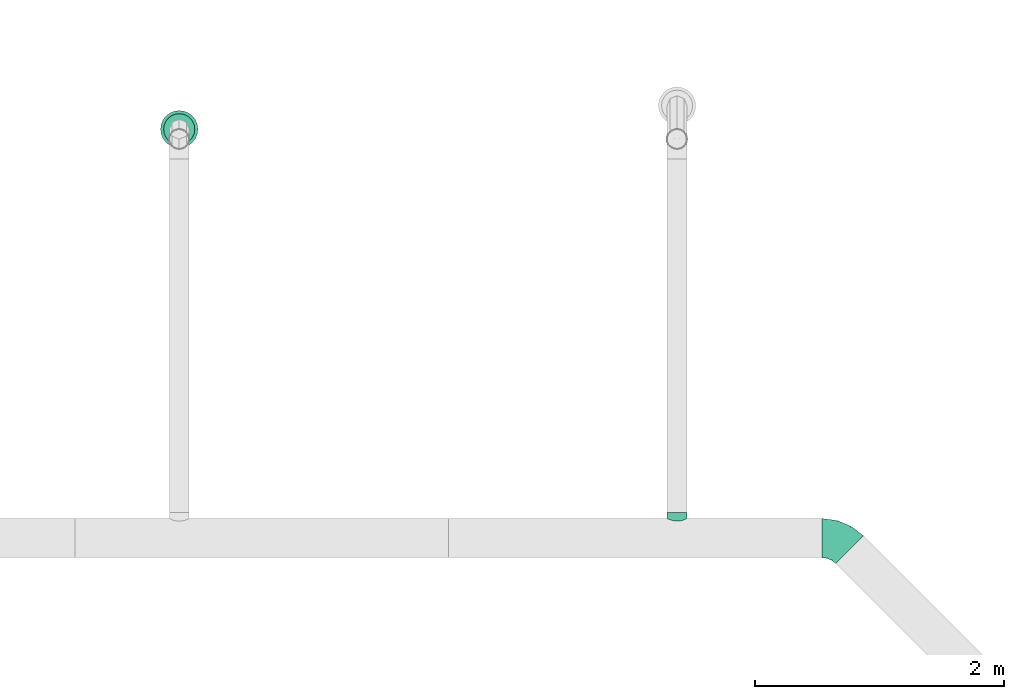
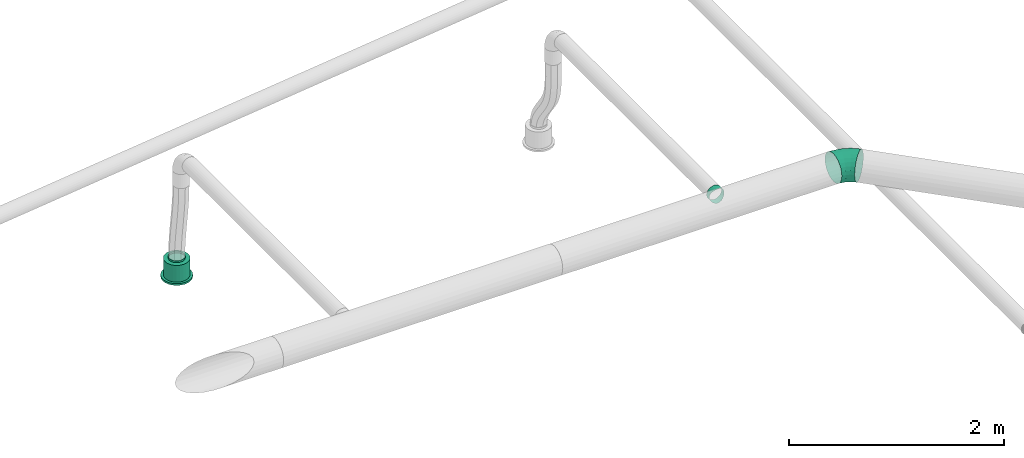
# One storey, part 52 of 374: 1 flow fitting, 1 flow segment, 1 flow terminal.
"""IFC2X3 building model written with IfcOpenShell, lengths in metres."""

from ifc_helpers import new_model, si_unit, direction, origin, place, context, subcontext, project, spatial, open_shell, surface_model, source, transform, mapped, element, save


model = new_model("IFC2X3")

# Units and contexts
model_context = context("Model", 3, precision=1e-05, world=origin(), true_north=direction((-0.4480736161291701, 0.8939966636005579)))
body_context = subcontext(model_context, "Body", "Model", "MODEL_VIEW")
ifc_project = project(units=[si_unit("LENGTHUNIT", "METRE"), si_unit("AREAUNIT", "SQUARE_METRE"), si_unit("VOLUMEUNIT", "CUBIC_METRE"), si_unit("PLANEANGLEUNIT", "RADIAN"), si_unit("THERMODYNAMICTEMPERATUREUNIT", "KELVIN"), si_unit("MASSUNIT", "GRAM", prefix="KILO"), si_unit("TIMEUNIT", "SECOND")], contexts=[model_context])

# Site, building, storey
site_placement = place(None, origin())
site = spatial("IfcSite", under=ifc_project, at=site_placement, Name="Site 1", CompositionType="ELEMENT")
building_placement = place(site_placement, origin())
building = spatial("IfcBuilding", under=site, at=building_placement, Name="Undefined", CompositionType="ELEMENT")
storey_placement = place(building_placement, origin())
storey = spatial("IfcBuildingStorey", under=building, at=storey_placement, Name="Rez de chauss\x8ee", CompositionType="ELEMENT", Elevation=0.0)

# Flow terminal
shared_shape_1 = source(origin(), body_context, "Body", "SurfaceModel", [
    surface_model("IfcFaceBasedSurfaceModel", [(0.0, 0.0, 0.0), (0.03915785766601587, 0.0, 0.0), (0.03915785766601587, 0.020000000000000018, 0.0), (3.552713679e-15, 0.020000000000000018, 0.0), (0.07698144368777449, 0.0, -0.010134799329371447), (0.07698144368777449, 0.020000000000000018, -0.010134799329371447), (0.11089314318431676, 0.0, -0.02971372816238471), (0.11089314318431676, 0.020000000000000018, -0.02971372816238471), (0.13858192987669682, 0.0, -0.05740251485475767), (0.13858192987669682, 0.020000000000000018, -0.05740251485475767), (0.15816085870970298, 0.0, -0.09131421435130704), (0.15816085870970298, 0.020000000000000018, -0.09131421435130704), (0.16829565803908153, 0.0, -0.12913780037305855), (0.16829565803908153, 0.020000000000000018, -0.12913780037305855), (0.16829565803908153, 0.0, -0.16829565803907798), (0.16829565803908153, 0.020000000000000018, -0.16829565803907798), (0.15816085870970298, 0.0, -0.20611924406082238), (0.15816085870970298, 0.020000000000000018, -0.20611924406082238), (0.13858192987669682, 0.0, -0.24003094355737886), (0.13858192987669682, 0.020000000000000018, -0.24003094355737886), (0.11089314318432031, 0.0, -0.2677197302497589), (0.11089314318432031, 0.020000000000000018, -0.2677197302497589), (0.07698144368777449, 0.0, -0.2872986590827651), (0.07698144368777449, 0.020000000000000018, -0.2872986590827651), (0.039157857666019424, 0.0, -0.29743345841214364), (0.039157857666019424, 0.020000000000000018, -0.29743345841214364), (3.552713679e-15, 0.0, -0.29743345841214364), (3.552713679e-15, 0.020000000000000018, -0.29743345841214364), (-0.03782358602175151, 0.0, -0.2872986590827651), (-0.03782358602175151, 0.020000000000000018, -0.2872986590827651), (-0.07173528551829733, 0.0, -0.2677197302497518), (-0.07173528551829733, 0.020000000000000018, -0.2677197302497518), (-0.0994240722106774, 0.0, -0.24003094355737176), (-0.0994240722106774, 0.020000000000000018, -0.24003094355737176), (-0.11900300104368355, 0.0, -0.2061192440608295), (-0.11900300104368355, 0.020000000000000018, -0.2061192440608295), (-0.1291378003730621, 0.0, -0.16829565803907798), (-0.1291378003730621, 0.020000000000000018, -0.16829565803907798), (-0.1291378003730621, 0.0, -0.12913780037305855), (-0.1291378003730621, 0.020000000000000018, -0.12913780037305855), (-0.11900300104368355, 0.0, -0.09131421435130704), (-0.11900300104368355, 0.020000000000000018, -0.09131421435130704), (-0.0994240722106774, 0.0, -0.05740251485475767), (-0.0994240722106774, 0.020000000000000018, -0.05740251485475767), (-0.07173528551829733, 0.0, -0.029713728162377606), (-0.07173528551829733, 0.020000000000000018, -0.029713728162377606), (-0.03782358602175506, 0.0, -0.010134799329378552), (-0.03782358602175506, 0.020000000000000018, -0.010134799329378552), (0.019578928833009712, 0.0, -0.14871672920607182), (0.019578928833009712, 0.020000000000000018, -0.14871672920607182), (0.003263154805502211, 0.020000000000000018, -0.02478612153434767), (0.035894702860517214, 0.020000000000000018, -0.02478612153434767), (0.035894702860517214, 0.20999999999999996, -0.02478612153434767), (0.003263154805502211, 0.20999999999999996, -0.02478612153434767), (0.06741435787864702, 0.020000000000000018, -0.033231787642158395), (0.06741435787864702, 0.20999999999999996, -0.033231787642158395), (0.0956741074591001, 0.020000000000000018, -0.04954756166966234), (0.0956741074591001, 0.20999999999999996, -0.04954756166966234), (0.11874809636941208, 0.020000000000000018, -0.07262155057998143), (0.11874809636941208, 0.20999999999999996, -0.07262155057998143), (0.13506387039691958, 0.020000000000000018, -0.10088130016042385), (0.13506387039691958, 0.20999999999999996, -0.10088130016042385), (0.1435095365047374, 0.020000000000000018, -0.13240095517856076), (0.1435095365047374, 0.20999999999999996, -0.13240095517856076), (0.1435095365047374, 0.020000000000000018, -0.16503250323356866), (0.1435095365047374, 0.20999999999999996, -0.16503250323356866), (0.13506387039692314, 0.020000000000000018, -0.19655215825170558), (0.13506387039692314, 0.20999999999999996, -0.19655215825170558), (0.11874809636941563, 0.020000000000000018, -0.2248119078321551), (0.11874809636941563, 0.20999999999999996, -0.2248119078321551), (0.09567410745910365, 0.020000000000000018, -0.24788589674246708), (0.09567410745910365, 0.20999999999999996, -0.24788589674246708), (0.06741435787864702, 0.020000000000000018, -0.26420167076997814), (0.06741435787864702, 0.20999999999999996, -0.26420167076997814), (0.035894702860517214, 0.020000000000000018, -0.27264733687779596), (0.035894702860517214, 0.20999999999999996, -0.27264733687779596), (0.0032631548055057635, 0.020000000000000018, -0.27264733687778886), (0.0032631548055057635, 0.20999999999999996, -0.27264733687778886), (-0.028256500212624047, 0.020000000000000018, -0.26420167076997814), (-0.028256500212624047, 0.20999999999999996, -0.26420167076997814), (-0.05651624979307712, 0.020000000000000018, -0.2478858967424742), (-0.05651624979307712, 0.20999999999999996, -0.2478858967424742), (-0.07959023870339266, 0.020000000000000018, -0.2248119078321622), (-0.07959023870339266, 0.20999999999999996, -0.2248119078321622), (-0.09590601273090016, 0.020000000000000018, -0.19655215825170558), (-0.09590601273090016, 0.20999999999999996, -0.19655215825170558), (-0.10435167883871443, 0.020000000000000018, -0.16503250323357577), (-0.10435167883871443, 0.20999999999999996, -0.16503250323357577), (-0.10435167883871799, 0.020000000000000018, -0.13240095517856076), (-0.10435167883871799, 0.20999999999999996, -0.13240095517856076), (-0.09590601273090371, 0.020000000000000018, -0.10088130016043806), (-0.09590601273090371, 0.20999999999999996, -0.10088130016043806), (-0.07959023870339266, 0.020000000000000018, -0.07262155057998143), (-0.07959023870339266, 0.20999999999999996, -0.07262155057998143), (-0.056516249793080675, 0.020000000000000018, -0.04954756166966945), (-0.056516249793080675, 0.20999999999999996, -0.04954756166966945), (-0.028256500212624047, 0.020000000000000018, -0.033231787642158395), (-0.028256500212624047, 0.20999999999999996, -0.033231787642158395), (0.019578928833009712, 0.20999999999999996, -0.14871672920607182), (0.009136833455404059, 0.20999999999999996, -0.06940114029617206), (0.030021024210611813, 0.20999999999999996, -0.06940114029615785), (0.030021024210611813, 0.22999999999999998, -0.06940114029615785), (0.009136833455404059, 0.22999999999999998, -0.06940114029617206), (0.05019360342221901, 0.20999999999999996, -0.07480636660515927), (0.05019360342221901, 0.22999999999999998, -0.07480636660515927), (0.06827984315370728, 0.20999999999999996, -0.08524846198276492), (0.06827984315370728, 0.22999999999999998, -0.08524846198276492), (0.0830471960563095, 0.20999999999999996, -0.10001581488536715), (0.0830471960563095, 0.22999999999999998, -0.10001581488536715), (0.0934892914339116, 0.20999999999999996, -0.11810205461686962), (0.0934892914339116, 0.22999999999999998, -0.11810205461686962), (0.09889451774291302, 0.20999999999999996, -0.13827463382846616), (0.09889451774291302, 0.22999999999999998, -0.13827463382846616), (0.09889451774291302, 0.20999999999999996, -0.15915882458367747), (0.09889451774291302, 0.22999999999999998, -0.15915882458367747), (0.09348929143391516, 0.20999999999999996, -0.179331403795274), (0.09348929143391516, 0.22999999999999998, -0.179331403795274), (0.0830471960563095, 0.20999999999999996, -0.19741764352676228), (0.0830471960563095, 0.22999999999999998, -0.19741764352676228), (0.06827984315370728, 0.20999999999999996, -0.2121849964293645), (0.06827984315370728, 0.22999999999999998, -0.2121849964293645), (0.05019360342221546, 0.20999999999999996, -0.22262709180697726), (0.05019360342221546, 0.22999999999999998, -0.22262709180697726), (0.030021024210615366, 0.20999999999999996, -0.22803231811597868), (0.030021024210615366, 0.22999999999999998, -0.22803231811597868), (0.009136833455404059, 0.20999999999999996, -0.22803231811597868), (0.009136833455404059, 0.22999999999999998, -0.22803231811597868), (-0.011035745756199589, 0.20999999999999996, -0.22262709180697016), (-0.011035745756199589, 0.22999999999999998, -0.22262709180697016), (-0.0291219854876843, 0.20999999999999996, -0.2121849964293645), (-0.0291219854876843, 0.22999999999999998, -0.2121849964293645), (-0.043889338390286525, 0.20999999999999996, -0.19741764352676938), (-0.043889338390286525, 0.22999999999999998, -0.19741764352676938), (-0.05433143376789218, 0.20999999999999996, -0.17933140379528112), (-0.05433143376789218, 0.22999999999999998, -0.17933140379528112), (-0.05973666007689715, 0.20999999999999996, -0.15915882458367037), (-0.05973666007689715, 0.22999999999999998, -0.15915882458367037), (-0.0597366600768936, 0.20999999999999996, -0.13827463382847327), (-0.0597366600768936, 0.22999999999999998, -0.13827463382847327), (-0.05433143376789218, 0.20999999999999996, -0.11810205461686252), (-0.05433143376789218, 0.22999999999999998, -0.11810205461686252), (-0.043889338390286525, 0.20999999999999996, -0.10001581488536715), (-0.043889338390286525, 0.22999999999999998, -0.10001581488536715), (-0.02912198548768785, 0.20999999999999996, -0.08524846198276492), (-0.02912198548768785, 0.22999999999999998, -0.08524846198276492), (-0.011035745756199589, 0.20999999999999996, -0.07480636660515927), (-0.011035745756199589, 0.22999999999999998, -0.07480636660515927)], [open_shell([[[0, 1, 2, 3]], [[1, 4, 5, 2]], [[4, 6, 7, 5]], [[6, 8, 9, 7]], [[8, 10, 11, 9]], [[10, 12, 13, 11]], [[12, 14, 15, 13]], [[14, 16, 17, 15]], [[16, 18, 19, 17]], [[18, 20, 21, 19]], [[20, 22, 23, 21]], [[22, 24, 25, 23]], [[24, 26, 27, 25]], [[26, 28, 29, 27]], [[28, 30, 31, 29]], [[30, 32, 33, 31]], [[32, 34, 35, 33]], [[34, 36, 37, 35]], [[36, 38, 39, 37]], [[38, 40, 41, 39]], [[40, 42, 43, 41]], [[42, 44, 45, 43]], [[44, 46, 47, 45]], [[46, 0, 3, 47]], [[48, 1, 0]], [[48, 4, 1]], [[48, 6, 4]], [[48, 8, 6]], [[48, 10, 8]], [[48, 12, 10]], [[48, 14, 12]], [[48, 16, 14]], [[48, 18, 16]], [[48, 20, 18]], [[48, 22, 20]], [[48, 24, 22]], [[48, 26, 24]], [[48, 28, 26]], [[48, 30, 28]], [[48, 32, 30]], [[48, 34, 32]], [[48, 36, 34]], [[48, 38, 36]], [[48, 40, 38]], [[48, 42, 40]], [[48, 44, 42]], [[48, 46, 44]], [[48, 0, 46]], [[49, 47, 3]], [[49, 45, 47]], [[49, 43, 45]], [[49, 41, 43]], [[49, 39, 41]], [[49, 37, 39]], [[49, 35, 37]], [[49, 33, 35]], [[49, 31, 33]], [[49, 29, 31]], [[49, 27, 29]], [[49, 25, 27]], [[49, 23, 25]], [[49, 21, 23]], [[49, 19, 21]], [[49, 17, 19]], [[49, 15, 17]], [[49, 13, 15]], [[49, 11, 13]], [[49, 9, 11]], [[49, 7, 9]], [[49, 5, 7]], [[49, 2, 5]], [[49, 3, 2]], [[50, 51, 52, 53]], [[51, 54, 55, 52]], [[54, 56, 57, 55]], [[56, 58, 59, 57]], [[58, 60, 61, 59]], [[60, 62, 63, 61]], [[62, 64, 65, 63]], [[64, 66, 67, 65]], [[66, 68, 69, 67]], [[68, 70, 71, 69]], [[70, 72, 73, 71]], [[72, 74, 75, 73]], [[74, 76, 77, 75]], [[76, 78, 79, 77]], [[78, 80, 81, 79]], [[80, 82, 83, 81]], [[82, 84, 85, 83]], [[84, 86, 87, 85]], [[86, 88, 89, 87]], [[88, 90, 91, 89]], [[90, 92, 93, 91]], [[92, 94, 95, 93]], [[94, 96, 97, 95]], [[96, 50, 53, 97]], [[49, 51, 50]], [[49, 54, 51]], [[49, 56, 54]], [[49, 58, 56]], [[49, 60, 58]], [[49, 62, 60]], [[49, 64, 62]], [[49, 66, 64]], [[49, 68, 66]], [[49, 70, 68]], [[49, 72, 70]], [[49, 74, 72]], [[49, 76, 74]], [[49, 78, 76]], [[49, 80, 78]], [[49, 82, 80]], [[49, 84, 82]], [[49, 86, 84]], [[49, 88, 86]], [[49, 90, 88]], [[49, 92, 90]], [[49, 94, 92]], [[49, 96, 94]], [[49, 50, 96]], [[98, 97, 53]], [[98, 95, 97]], [[98, 93, 95]], [[98, 91, 93]], [[98, 89, 91]], [[98, 87, 89]], [[98, 85, 87]], [[98, 83, 85]], [[98, 81, 83]], [[98, 79, 81]], [[98, 77, 79]], [[98, 75, 77]], [[98, 73, 75]], [[98, 71, 73]], [[98, 69, 71]], [[98, 67, 69]], [[98, 65, 67]], [[98, 63, 65]], [[98, 61, 63]], [[98, 59, 61]], [[98, 57, 59]], [[98, 55, 57]], [[98, 52, 55]], [[98, 53, 52]], [[99, 100, 101, 102]], [[100, 103, 104, 101]], [[103, 105, 106, 104]], [[105, 107, 108, 106]], [[107, 109, 110, 108]], [[109, 111, 112, 110]], [[111, 113, 114, 112]], [[113, 115, 116, 114]], [[115, 117, 118, 116]], [[117, 119, 120, 118]], [[119, 121, 122, 120]], [[121, 123, 124, 122]], [[123, 125, 126, 124]], [[125, 127, 128, 126]], [[127, 129, 130, 128]], [[129, 131, 132, 130]], [[131, 133, 134, 132]], [[133, 135, 136, 134]], [[135, 137, 138, 136]], [[137, 139, 140, 138]], [[139, 141, 142, 140]], [[141, 143, 144, 142]], [[143, 145, 146, 144]], [[145, 99, 102, 146]]])]),
])
flow_terminal_placement = place(storey_placement, origin())
element("IfcFlowTerminal", 1, at=flow_terminal_placement, inside=storey, Name="Air diffuseur - bouche", ObjectType="Air diffuseur - bouche", context=body_context, shape_type="MappedRepresentation", body=[
    mapped(shared_shape_1, transform((22.290000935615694, 25.87999877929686, 2.38), x_axis=(0.9914448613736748, 0.13052619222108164, 0.0), y_axis=(0.0, 0.0, 1.0), z_axis=(0.13052619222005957, -0.9914448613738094, 0.0))),
])

# Flow segment
shared_shape_2 = source(origin(), body_context, "Body", "SurfaceModel", [
    surface_model("IfcFaceBasedSurfaceModel", [(0.0013669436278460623, 0.02088419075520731, 0.0), (0.0, 0.0, 0.0), (0.05136694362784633, -8.8817842e-16, 0.0), (0.05136694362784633, 0.02088419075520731, 0.0), (-0.0037970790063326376, -0.020172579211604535, -0.005405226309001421), (0.05136694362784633, -0.020172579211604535, -0.005405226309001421), (-0.009142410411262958, -0.03825881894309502, -0.015847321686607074), (0.05136694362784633, -0.03825881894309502, -0.015847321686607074), (-0.014689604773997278, -0.05302617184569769, -0.030614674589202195), (0.05136694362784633, -0.05302617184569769, -0.030614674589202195), (-0.018892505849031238, -0.06346826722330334, -0.04870091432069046), (0.05136694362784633, -0.06346826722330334, -0.04870091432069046), (-0.020463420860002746, -0.06887349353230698, -0.0688734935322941), (0.05136694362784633, -0.06887349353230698, -0.0688734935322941), (-0.018892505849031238, -0.06887349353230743, -0.08975768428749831), (0.05136694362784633, -0.06887349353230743, -0.08975768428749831), (-0.014689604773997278, -0.06346826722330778, -0.10993026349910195), (0.05136694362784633, -0.06346826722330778, -0.10993026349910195), (-0.009142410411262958, -0.05302617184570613, -0.12801650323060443), (0.05136694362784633, -0.05302617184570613, -0.12801650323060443), (-0.0037970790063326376, -0.03825881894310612, -0.14278385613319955), (0.05136694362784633, -0.03825881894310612, -0.14278385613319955), (0.0, -0.020172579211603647, -0.15322595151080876), (0.05136694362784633, -0.020172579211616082, -0.1532259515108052), (0.0013669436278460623, -1.3766765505e-14, -0.15863117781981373), (0.05136694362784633, -1.3766765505e-14, -0.15863117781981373), (0.0, 0.020884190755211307, -0.15863117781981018), (0.05136694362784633, 0.02088419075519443, -0.15863117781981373), (-0.0037970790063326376, 0.041056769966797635, -0.1532259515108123), (0.05136694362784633, 0.041056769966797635, -0.1532259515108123), (-0.009142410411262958, 0.05914300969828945, -0.14278385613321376), (0.05136694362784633, 0.05914300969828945, -0.14278385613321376), (-0.014689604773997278, 0.07391036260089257, -0.12801650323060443), (0.05136694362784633, 0.07391036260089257, -0.12801650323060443), (-0.018892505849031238, 0.08435245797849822, -0.10993026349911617), (0.05136694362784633, 0.08435245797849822, -0.10993026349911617), (-0.020463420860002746, 0.08975768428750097, -0.08975768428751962), (0.05136694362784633, 0.08975768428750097, -0.08975768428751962), (-0.018892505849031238, 0.0897576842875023, -0.06887349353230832), (0.05136694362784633, 0.0897576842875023, -0.06887349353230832), (-0.014689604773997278, 0.08435245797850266, -0.04870091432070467), (0.05136694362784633, 0.08435245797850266, -0.04870091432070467), (-0.009142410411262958, 0.07391036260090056, -0.030614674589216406), (0.05136694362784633, 0.07391036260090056, -0.030614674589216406), (-0.0037970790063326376, 0.05914300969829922, -0.01584732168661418), (0.05136694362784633, 0.05914300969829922, -0.01584732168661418), (0.0, 0.04105676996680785, -0.005405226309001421), (0.05136694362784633, 0.04105676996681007, -0.005405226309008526)], [open_shell([[[0, 1, 2, 3]], [[1, 4, 5, 2]], [[4, 6, 7, 5]], [[6, 8, 9, 7]], [[8, 10, 11, 9]], [[10, 12, 13, 11]], [[12, 14, 15, 13]], [[14, 16, 17, 15]], [[16, 18, 19, 17]], [[18, 20, 21, 19]], [[20, 22, 23, 21]], [[22, 24, 25, 23]], [[24, 26, 27, 25]], [[26, 28, 29, 27]], [[28, 30, 31, 29]], [[30, 32, 33, 31]], [[32, 34, 35, 33]], [[34, 36, 37, 35]], [[36, 38, 39, 37]], [[38, 40, 41, 39]], [[40, 42, 43, 41]], [[42, 44, 45, 43]], [[44, 46, 47, 45]], [[46, 0, 3, 47]]])]),
])
flow_segment_placement = place(storey_placement, origin())
element("IfcFlowSegment", 2, at=flow_segment_placement, inside=storey, Name="Piquage équerre circulaire", ObjectType="Piquage équerre circulaire", context=body_context, shape_type="MappedRepresentation", body=[
    mapped(shared_shape_2, transform((26.212726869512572, 22.901062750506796, 3.820705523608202), x_axis=(0.0, 1.0, 0.0), y_axis=(-0.13052619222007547, 0.0, -0.9914448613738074), z_axis=(-0.9914448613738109, 0.0, 0.1305261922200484))),
])

# Flow fitting
shared_shape_3 = source(origin(), body_context, "Body", "SurfaceModel", [
    surface_model("IfcFaceBasedSurfaceModel", [(0.12334725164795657, 0.0, -1.110223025e-15), (0.12264675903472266, 0.04110978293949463, -7.77156117e-16), (0.0007004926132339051, 0.041109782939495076, -7.77156117e-16), (0.0, 0.0, 0.0), (-0.1170905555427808, 0.04519480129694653, -0.031296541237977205), (-0.11914429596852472, 0.004131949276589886, -0.0316560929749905), (-0.22269912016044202, 0.05308645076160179, -0.0917568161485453), (-0.2259661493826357, 0.01211426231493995, -0.09281096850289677), (0.12059301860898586, 0.08079531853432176, -0.01055203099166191), (0.0027542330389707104, 0.08079531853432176, -0.01055203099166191), (-0.11106929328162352, 0.08474274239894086, -0.04079441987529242), (-0.21312067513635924, 0.09236857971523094, -0.09921822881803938), (0.11732598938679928, 0.11635210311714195, -0.03093698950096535), (0.006021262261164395, 0.1163521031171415, -0.030936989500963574), (-0.10149084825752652, 0.12008064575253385, -0.05950246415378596), (-0.19788356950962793, 0.12728363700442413, -0.11468672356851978), (0.11306831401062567, 0.14535700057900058, -0.05976567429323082), (0.010278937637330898, 0.14535700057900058, -0.05976567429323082), (-0.08900797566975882, 0.14880029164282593, -0.08614575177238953), (-0.17802618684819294, 0.15545221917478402, -0.13710814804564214), (0.10811014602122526, 0.16583337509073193, -0.09507345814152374), (0.015237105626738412, 0.16583337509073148, -0.09507345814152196), (-0.07447136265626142, 0.16894448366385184, -0.1189085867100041), (-0.15490177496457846, 0.17495468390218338, -0.16495451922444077), (0.10278937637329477, 0.17638579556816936, -0.13445417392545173), (0.020557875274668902, 0.17638579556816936, -0.1344541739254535), (-0.05887165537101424, 0.17914042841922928, -0.15555823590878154), (-0.13008622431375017, 0.18446197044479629, -0.1963281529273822), (0.09746860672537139, 0.17629513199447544, -0.17522409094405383), (0.025878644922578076, 0.17629513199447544, -0.17522409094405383), (-0.043271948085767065, 0.17869328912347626, -0.19359708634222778), (-0.10527067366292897, 0.18332617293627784, -0.22909098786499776), (0.09251043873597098, 0.1655675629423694, -0.2146048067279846), (0.030836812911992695, 0.1655675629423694, -0.21460480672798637), (-0.028735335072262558, 0.1676335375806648, -0.2304328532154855), (-0.0821462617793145, 0.17162469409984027, -0.261010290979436), (0.08825276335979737, 0.14493415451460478, -0.24991259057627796), (0.0350944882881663, 0.14493415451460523, -0.2499125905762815), (-0.01625246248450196, 0.1467148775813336, -0.2635552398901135), (-0.06228887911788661, 0.15015497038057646, -0.28991081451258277), (0.08498573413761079, 0.11580103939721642, -0.27874127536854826), (0.03836151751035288, 0.11580103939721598, -0.2787412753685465), (-0.0066740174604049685, 0.11736288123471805, -0.2907070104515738), (-0.0470517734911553, 0.12038012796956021, -0.3138230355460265), (0.08293199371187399, 0.08015359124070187, -0.2991262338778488), (0.04041525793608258, 0.08015359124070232, -0.2991262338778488), (-0.0006527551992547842, 0.08157783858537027, -0.31003781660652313), (-0.037473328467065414, 0.08432927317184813, -0.3311173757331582), (0.08223150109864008, 0.040421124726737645, -0.30967826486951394), (0.0411157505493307, 0.040421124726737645, -0.30967826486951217), (0.001400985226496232, 0.04179844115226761, -0.32023029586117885), (-0.03420629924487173, 0.044459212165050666, -0.34061525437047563), (0.08293199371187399, -0.0006886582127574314, -0.3096782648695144), (0.04041525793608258, -0.0006886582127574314, -0.3096782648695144), (-0.0006527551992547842, 0.0007355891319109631, -0.3205898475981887), (-0.037473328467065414, 0.0034870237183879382, -0.34166940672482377), (0.08498573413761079, -0.040374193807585, -0.29912623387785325), (0.03836151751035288, -0.040374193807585, -0.2991262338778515), (-0.0066740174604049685, -0.03881235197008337, -0.3110919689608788), (-0.0470517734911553, -0.03579510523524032, -0.33420799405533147), (0.08825276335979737, -0.07593097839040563, -0.2787412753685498), (0.0350944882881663, -0.07593097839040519, -0.27874127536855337), (-0.01625246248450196, -0.0741502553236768, -0.29238392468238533), (-0.06228887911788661, -0.07071016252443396, -0.3187394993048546), (0.09251043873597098, -0.10493587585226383, -0.2499125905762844), (0.030836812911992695, -0.10493587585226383, -0.24991259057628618), (-0.028735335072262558, -0.10286990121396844, -0.2657406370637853), (-0.0821462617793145, -0.09887874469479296, -0.2963180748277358), (0.09746860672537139, -0.12541225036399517, -0.21460480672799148), (0.025878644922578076, -0.12541225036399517, -0.21460480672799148), (-0.043271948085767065, -0.12301409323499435, -0.23297780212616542), (-0.10527067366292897, -0.11838120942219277, -0.2684717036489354), (0.10278937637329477, -0.13596467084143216, -0.1752240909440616), (0.020557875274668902, -0.13596467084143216, -0.17522409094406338), (-0.05887165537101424, -0.1332100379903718, -0.19632815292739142), (-0.13008622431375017, -0.12788849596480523, -0.23709806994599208), (0.10811014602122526, -0.13587400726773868, -0.13445417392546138), (0.015237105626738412, -0.13587400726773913, -0.1344541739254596), (-0.07447136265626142, -0.13276289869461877, -0.15828930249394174), (-0.15490177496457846, -0.12675269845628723, -0.2043352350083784), (0.11306831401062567, -0.12514643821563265, -0.09507345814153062), (0.010278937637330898, -0.12514643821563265, -0.09507345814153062), (-0.08900797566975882, -0.1217031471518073, -0.12145353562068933), (-0.17802618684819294, -0.11505121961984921, -0.17241593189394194), (0.11732598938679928, -0.10451302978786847, -0.05976567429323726), (0.006021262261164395, -0.10451302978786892, -0.05976567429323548), (-0.10149084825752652, -0.10078448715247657, -0.08833114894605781), (-0.19788356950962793, -0.09358149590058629, -0.14351540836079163), (0.12059301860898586, -0.07537991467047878, -0.030936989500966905), (0.0027542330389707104, -0.07537991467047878, -0.030936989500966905), (-0.11106929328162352, -0.07143249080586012, -0.06117937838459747), (-0.21312067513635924, -0.06380665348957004, -0.11960318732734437), (0.12264675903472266, -0.039732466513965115, -0.010552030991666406), (0.0007004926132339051, -0.039732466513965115, -0.010552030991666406), (-0.1170905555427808, -0.03564744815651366, -0.04184857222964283), (-0.22269912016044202, -0.027755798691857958, -0.10230884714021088)], [open_shell([[[0, 1, 2, 3]], [[3, 2, 4, 5]], [[5, 4, 6, 7]], [[1, 8, 9, 2]], [[2, 9, 10, 4]], [[4, 10, 11, 6]], [[8, 12, 13, 9]], [[9, 13, 14, 10]], [[10, 14, 15, 11]], [[12, 16, 17, 13]], [[13, 17, 18, 14]], [[14, 18, 19, 15]], [[16, 20, 21, 17]], [[17, 21, 22, 18]], [[18, 22, 23, 19]], [[20, 24, 25, 21]], [[21, 25, 26, 22]], [[22, 26, 27, 23]], [[24, 28, 29, 25]], [[25, 29, 30, 26]], [[26, 30, 31, 27]], [[28, 32, 33, 29]], [[29, 33, 34, 30]], [[30, 34, 35, 31]], [[32, 36, 37, 33]], [[33, 37, 38, 34]], [[34, 38, 39, 35]], [[36, 40, 41, 37]], [[37, 41, 42, 38]], [[38, 42, 43, 39]], [[40, 44, 45, 41]], [[41, 45, 46, 42]], [[42, 46, 47, 43]], [[44, 48, 49, 45]], [[45, 49, 50, 46]], [[46, 50, 51, 47]], [[48, 52, 53, 49]], [[49, 53, 54, 50]], [[50, 54, 55, 51]], [[52, 56, 57, 53]], [[53, 57, 58, 54]], [[54, 58, 59, 55]], [[56, 60, 61, 57]], [[57, 61, 62, 58]], [[58, 62, 63, 59]], [[60, 64, 65, 61]], [[61, 65, 66, 62]], [[62, 66, 67, 63]], [[64, 68, 69, 65]], [[65, 69, 70, 66]], [[66, 70, 71, 67]], [[68, 72, 73, 69]], [[69, 73, 74, 70]], [[70, 74, 75, 71]], [[72, 76, 77, 73]], [[73, 77, 78, 74]], [[74, 78, 79, 75]], [[76, 80, 81, 77]], [[77, 81, 82, 78]], [[78, 82, 83, 79]], [[80, 84, 85, 81]], [[81, 85, 86, 82]], [[82, 86, 87, 83]], [[84, 88, 89, 85]], [[85, 89, 90, 86]], [[86, 90, 91, 87]], [[88, 92, 93, 89]], [[89, 93, 94, 90]], [[90, 94, 95, 91]], [[92, 0, 3, 93]], [[93, 3, 5, 94]], [[94, 5, 7, 95]]])]),
])
flow_fitting_placement = place(storey_placement, origin())
element("IfcFlowFitting", 3, at=flow_fitting_placement, inside=storey, Name="Coude", ObjectType="Coude", context=body_context, shape_type="MappedRepresentation", body=[
    mapped(shared_shape_3, transform((27.68939372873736, 22.839126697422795, 3.8000000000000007), x_axis=(0.79335334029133, -0.6087614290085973, 0.0), y_axis=(-0.0787909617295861, -0.10268238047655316, -0.9915887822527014), z_axis=(0.603641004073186, 0.786680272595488, -0.12942830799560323))),
])

save(model, "model.ifc")
